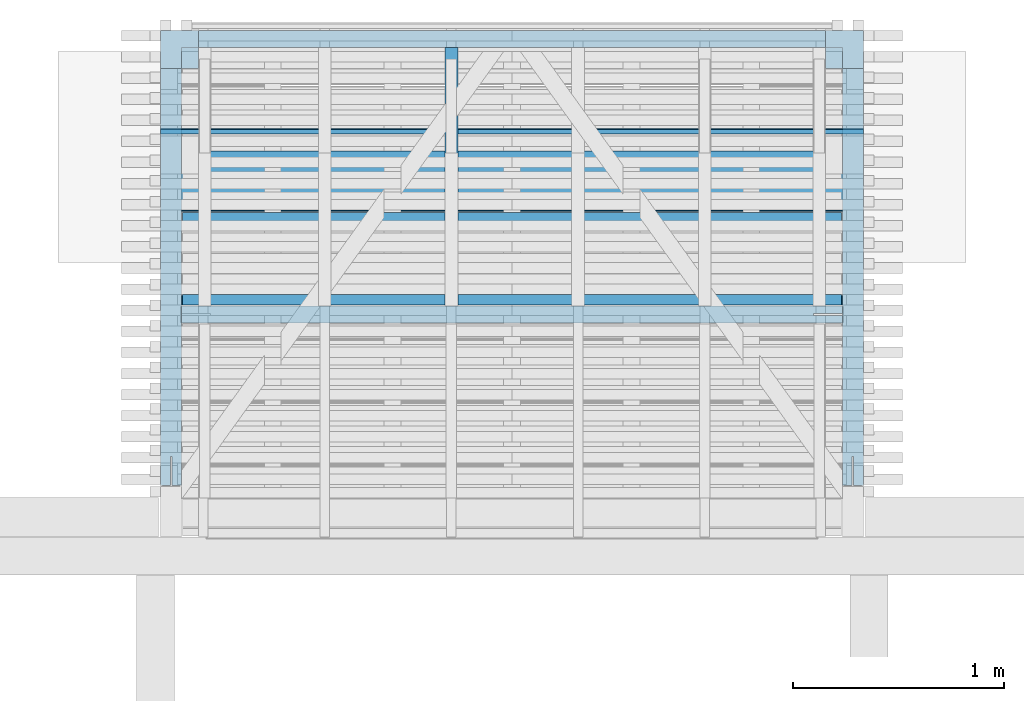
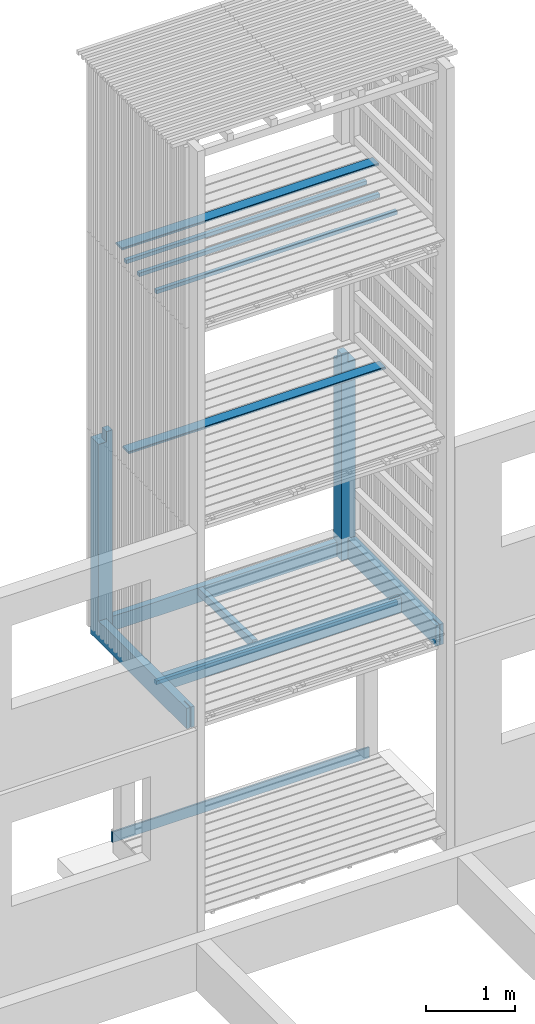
# One storey, part 47 of 182: 9 beams.
"""IFC2X3 building model written with IfcOpenShell, lengths in metres."""

from ifc_helpers import new_model, si_unit, frame, origin, place, context, project, spatial, faceted_brep, element, save


model = new_model("IFC2X3")

# Units and contexts
model_context = context("Model", 3, precision=1e-06, world=origin())
ifc_project = project(units=[si_unit("LENGTHUNIT", "METRE"), si_unit("PLANEANGLEUNIT", "RADIAN")], contexts=[model_context])

# Site, building, storey
site = spatial("IfcSite", under=ifc_project, CompositionType="ELEMENT")
building = spatial("IfcBuilding", under=site, CompositionType="ELEMENT")
storey = spatial("IfcBuildingStorey", under=building, Name="vs", CompositionType="ELEMENT", Elevation=-0.85)

# Beams
placement = place(None, origin())
beam_1_placement = place(placement, frame((14.98919731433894, 11.792577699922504, 2.437999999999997), z_axis=(0.0, -1.0, 0.0), x_axis=(0.0, 0.0, 1.0)))
element("IfcBeam", 1, at=beam_1_placement, inside=storey, Name="Poteau", context=model_context, shape_type="Brep", body=[
    faceted_brep([(2.841999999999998, -1.564999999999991, -0.997499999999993), (2.701999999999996, -1.564999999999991, -0.997499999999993), (2.701999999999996, -1.484999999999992, -0.997499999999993), (2.841999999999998, -1.484999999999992, -0.997499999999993), (2.701999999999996, 1.664999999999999, -1.077499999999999), (2.701999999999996, 1.485000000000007, -1.077499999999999), (0.202000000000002, 1.485000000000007, -1.077499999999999), (0.202000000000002, -1.484999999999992, -1.077499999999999), (2.701999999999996, -1.484999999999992, -1.077499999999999), (2.701999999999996, -1.664999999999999, -1.077499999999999), (0.002000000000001, -1.664999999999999, -1.077499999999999), (0.002000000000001, 1.664999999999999, -1.077499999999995), (0.282000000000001, -1.664999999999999, 1.077499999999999), (0.002000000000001, -1.664999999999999, 1.077499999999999), (0.002000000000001, -1.664999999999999, -1.077499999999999), (2.701999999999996, -1.664999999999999, -1.077499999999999), (2.701999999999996, -1.664999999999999, -0.897499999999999), (0.282000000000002, -1.664999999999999, -0.897499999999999), (2.701999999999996, -1.664999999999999, -0.897499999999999), (2.701999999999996, -1.664999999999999, -1.077499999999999), (2.701999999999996, -1.484999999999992, -1.077499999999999), (2.701999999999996, -1.484999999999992, -0.997499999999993), (2.701999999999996, -1.564999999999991, -0.997499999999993), (2.701999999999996, -1.564999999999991, -0.897499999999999), (2.701999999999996, -1.564999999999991, -0.897499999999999), (2.701999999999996, -1.564999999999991, -0.997499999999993), (2.841999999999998, -1.564999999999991, -0.997499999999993), (2.841999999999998, -1.564999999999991, -0.897499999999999), (2.841999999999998, -1.564999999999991, -0.897499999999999), (2.841999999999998, -1.564999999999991, -0.997499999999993), (2.841999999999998, -1.484999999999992, -0.997499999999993), (2.841999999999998, -1.484999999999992, -0.897499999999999), (0.002000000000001, -1.564999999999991, -0.897499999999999), (0.282000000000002, -1.564999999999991, -0.897499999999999), (0.282000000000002, -1.664999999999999, -0.897499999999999), (2.701999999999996, -1.664999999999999, -0.897499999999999), (2.701999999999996, -1.564999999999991, -0.897499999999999), (2.841999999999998, -1.564999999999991, -0.897499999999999), (2.841999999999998, -1.484999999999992, -0.897499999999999), (0.002000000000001, -1.484999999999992, -0.897499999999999), (0.202000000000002, -1.484999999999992, -0.997499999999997), (0.002000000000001, -1.484999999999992, -0.997499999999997), (0.002000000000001, -1.484999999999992, -0.897499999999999), (2.841999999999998, -1.484999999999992, -0.897499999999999), (2.841999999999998, -1.484999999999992, -0.997499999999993), (2.701999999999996, -1.484999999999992, -0.997499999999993), (2.701999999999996, -1.484999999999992, -1.077499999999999), (0.202000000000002, -1.484999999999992, -1.077499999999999), (2.841999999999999, 1.565000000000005, -0.897499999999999), (2.701999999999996, 1.565000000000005, -0.897499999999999), (2.701999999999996, 1.664999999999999, -0.897499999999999), (0.282000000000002, 1.664999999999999, -0.897499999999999), (0.282000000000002, 1.565000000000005, -0.897499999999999), (0.002000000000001, 1.565000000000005, -0.897499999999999), (0.002000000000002, 1.485000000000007, -0.897499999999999), (2.841999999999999, 1.485000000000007, -0.897499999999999), (2.841999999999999, 1.485000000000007, -0.997499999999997), (2.841999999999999, 1.485000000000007, -0.897499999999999), (0.002000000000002, 1.485000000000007, -0.897499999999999), (0.002000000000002, 1.485000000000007, -0.997500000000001), (0.202000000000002, 1.485000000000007, -0.997500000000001), (0.202000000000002, 1.485000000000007, -1.077499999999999), (2.701999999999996, 1.485000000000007, -1.077499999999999), (2.701999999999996, 1.485000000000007, -0.997499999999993), (2.701999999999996, 1.664999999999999, -1.077499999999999), (0.002000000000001, 1.664999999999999, -1.077499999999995), (0.002000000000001, 1.664999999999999, 1.077499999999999), (0.282000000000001, 1.664999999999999, 1.077499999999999), (0.282000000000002, 1.664999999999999, -0.897499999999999), (2.701999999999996, 1.664999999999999, -0.897499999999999), (0.202000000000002, 1.485000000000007, -0.997500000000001), (0.002000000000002, 1.485000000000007, -0.997500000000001), (0.002000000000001, -1.484999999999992, -0.997499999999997), (0.202000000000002, -1.484999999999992, -0.997499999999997), (0.202000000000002, -1.484999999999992, -1.077499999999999), (0.202000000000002, 1.485000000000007, -1.077499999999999), (0.202000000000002, 1.485000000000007, -0.997500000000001), (0.202000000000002, -1.484999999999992, -0.997499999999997), (0.002000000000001, -1.42799999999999, 0.263500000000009), (0.002, -1.564999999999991, 0.263500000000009), (0.177, -1.564999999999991, 0.263500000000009), (0.202000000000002, -1.564999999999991, 0.263500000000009), (0.202000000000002, -1.42799999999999, 0.263500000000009), (0.002000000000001, -1.42799999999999, 0.271500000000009), (0.002000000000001, -1.42799999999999, 0.263500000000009), (0.202000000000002, -1.42799999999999, 0.263500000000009), (0.202000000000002, -1.42799999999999, 0.271500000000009), (0.177, -1.564999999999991, 0.271500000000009), (0.002, -1.564999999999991, 0.271500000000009), (0.002000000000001, -1.42799999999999, 0.271500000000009), (0.202000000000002, -1.42799999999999, 0.271500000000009), (0.202000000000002, -1.564999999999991, 0.271500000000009), (0.177, -1.564999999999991, 0.263500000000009), (0.002, -1.564999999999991, 0.263500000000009), (0.002, -1.564999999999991, 0.22950000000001), (0.177, -1.564999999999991, 0.22950000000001), (0.202000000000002, -1.564999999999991, 0.271500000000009), (0.202000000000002, -1.42799999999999, 0.271500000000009), (0.202000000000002, -1.42799999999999, 0.263500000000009), (0.202000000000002, -1.564999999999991, 0.263500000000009), (0.202000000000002, -1.564999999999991, 0.227500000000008), (0.202000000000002, 1.565000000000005, 0.227500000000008), (0.202000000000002, 1.565000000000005, 0.30750000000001), (0.202000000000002, -1.564999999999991, 0.30750000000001), (0.002000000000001, 1.565000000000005, 0.227500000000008), (0.202000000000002, 1.565000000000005, 0.227500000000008), (0.202000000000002, -1.564999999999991, 0.227500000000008), (0.002, -1.564999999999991, 0.227500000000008), (0.202000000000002, -1.564999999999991, 0.30750000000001), (0.202000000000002, 1.565000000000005, 0.30750000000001), (0.002000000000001, 1.565000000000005, 0.30750000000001), (0.002, -1.564999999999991, 0.30750000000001), (0.002, -1.564999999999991, 0.305500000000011), (0.002, -1.564999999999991, 0.271500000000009), (0.177, -1.564999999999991, 0.271500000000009), (0.177, -1.564999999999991, 0.305500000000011), (0.002, -1.564999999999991, 0.227500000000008), (0.202000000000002, -1.564999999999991, 0.227500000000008), (0.202000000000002, -1.564999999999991, 0.263500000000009), (0.177, -1.564999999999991, 0.263500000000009), (0.177, -1.564999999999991, 0.271500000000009), (0.202000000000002, -1.564999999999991, 0.271500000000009), (0.202000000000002, -1.564999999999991, 0.30750000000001), (0.002, -1.564999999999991, 0.30750000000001), (0.002000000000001, -1.564999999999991, 1.077499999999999), (0.282000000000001, -1.564999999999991, 1.077499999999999), (0.282000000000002, -1.564999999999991, -0.897499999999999), (0.002000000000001, -1.564999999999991, -0.897499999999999), (0.002, -1.569999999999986, 0.22950000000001), (0.002, -1.569999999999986, 0.305500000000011), (0.177, -1.569999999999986, 0.305500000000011), (0.177, -1.569999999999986, 0.22950000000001), (0.177, -1.564999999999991, 0.271500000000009), (0.177, -1.564999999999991, 0.263500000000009), (0.177, -1.564999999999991, 0.22950000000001), (0.177, -1.569999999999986, 0.22950000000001), (0.177, -1.569999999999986, 0.305500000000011), (0.177, -1.564999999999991, 0.305500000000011), (0.177, -1.564999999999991, 0.22950000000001), (0.002, -1.564999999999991, 0.22950000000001), (0.002, -1.569999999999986, 0.22950000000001), (0.177, -1.569999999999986, 0.22950000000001), (0.177, -1.569999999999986, 0.305500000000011), (0.002, -1.569999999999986, 0.305500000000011), (0.002, -1.564999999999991, 0.305500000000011), (0.177, -1.564999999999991, 0.305500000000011), (0.002000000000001, -1.610999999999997, 0.940500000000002), (0.002000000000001, -1.618999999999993, 0.940500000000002), (0.282000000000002, -1.618999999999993, 0.940500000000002), (0.282000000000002, -1.610999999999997, 0.940500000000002), (0.282000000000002, -1.618999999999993, 0.940500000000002), (0.002000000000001, -1.618999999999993, 0.940500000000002), (0.002000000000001, -1.618999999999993, 1.077499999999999), (0.282000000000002, -1.618999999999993, 1.077500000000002), (0.002000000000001, -1.664999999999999, 1.077499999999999), (0.282000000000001, -1.664999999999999, 1.077499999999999), (0.282000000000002, -1.618999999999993, 1.077500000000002), (0.002000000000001, -1.618999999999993, 1.077499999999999), (0.282000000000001, -1.564999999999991, 1.077499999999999), (0.002000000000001, -1.564999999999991, 1.077499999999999), (0.002000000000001, -1.610999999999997, 1.077499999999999), (0.282000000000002, -1.610999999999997, 1.077500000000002), (0.282000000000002, -1.610999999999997, 1.077500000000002), (0.002000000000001, -1.610999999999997, 1.077499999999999), (0.002000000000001, -1.610999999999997, 0.940500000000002), (0.282000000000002, -1.610999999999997, 0.940500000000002), (0.282000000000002, -1.564999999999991, -0.897499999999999), (0.282000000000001, -1.564999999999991, 1.077499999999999), (0.282000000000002, -1.610999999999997, 1.077500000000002), (0.282000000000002, -1.610999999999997, 0.940500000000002), (0.282000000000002, -1.618999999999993, 0.940500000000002), (0.282000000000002, -1.618999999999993, 1.077500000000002), (0.282000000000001, -1.664999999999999, 1.077499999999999), (0.282000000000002, -1.664999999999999, -0.897499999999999), (0.002000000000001, 1.619000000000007, 0.940499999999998), (0.002000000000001, 1.611000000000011, 0.940499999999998), (0.282000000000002, 1.611000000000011, 0.940499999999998), (0.282000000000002, 1.619000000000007, 0.940499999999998), (0.282000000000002, 1.611000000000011, 0.940499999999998), (0.002000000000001, 1.611000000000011, 0.940499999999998), (0.002000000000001, 1.611000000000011, 1.077499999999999), (0.282000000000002, 1.611000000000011, 1.077499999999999), (0.002000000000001, 1.565000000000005, 1.077499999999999), (0.282000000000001, 1.565000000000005, 1.077499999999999), (0.282000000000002, 1.611000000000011, 1.077499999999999), (0.002000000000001, 1.611000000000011, 1.077499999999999), (0.282000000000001, 1.664999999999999, 1.077499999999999), (0.002000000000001, 1.664999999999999, 1.077499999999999), (0.002000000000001, 1.619000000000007, 1.077499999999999), (0.282000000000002, 1.619000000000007, 1.077499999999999), (0.282000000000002, 1.619000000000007, 1.077499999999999), (0.002000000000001, 1.619000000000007, 1.077499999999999), (0.002000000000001, 1.619000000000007, 0.940499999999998), (0.282000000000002, 1.619000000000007, 0.940499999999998), (0.282000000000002, 1.664999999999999, -0.897499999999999), (0.282000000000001, 1.664999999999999, 1.077499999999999), (0.282000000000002, 1.619000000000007, 1.077499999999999), (0.282000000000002, 1.619000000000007, 0.940499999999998), (0.282000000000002, 1.611000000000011, 0.940499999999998), (0.282000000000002, 1.611000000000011, 1.077499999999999), (0.282000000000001, 1.565000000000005, 1.077499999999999), (0.282000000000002, 1.565000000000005, -0.897499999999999), (0.202000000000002, 1.565000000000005, 0.227500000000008), (0.002000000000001, 1.565000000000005, 0.227500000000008), (0.002000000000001, 1.565000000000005, -0.897499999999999), (0.282000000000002, 1.565000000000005, -0.897499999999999), (0.282000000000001, 1.565000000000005, 1.077499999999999), (0.002000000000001, 1.565000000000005, 1.077499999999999), (0.002000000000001, 1.565000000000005, 0.30750000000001), (0.202000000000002, 1.565000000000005, 0.30750000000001), (0.002, 1.442250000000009, 0.249000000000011), (0.002, 1.442250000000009, 0.28600000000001), (1e-15, 1.442250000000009, 0.28600000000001), (1e-15, 1.442250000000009, 0.249000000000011), (0.002, 1.442250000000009, 0.249000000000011), (1e-15, 1.442250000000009, 0.249000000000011), (0.0, 1.565750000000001, 0.249000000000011), (0.002, 1.565750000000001, 0.249000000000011), (1e-15, 1.442250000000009, 0.28600000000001), (0.002, 1.442250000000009, 0.28600000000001), (0.002, 1.565750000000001, 0.28600000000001), (0.0, 1.565750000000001, 0.28600000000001), (1e-15, 1.442250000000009, 0.249000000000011), (1e-15, 1.442250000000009, 0.28600000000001), (0.0, 1.565750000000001, 0.28600000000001), (0.0, 1.565750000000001, 0.249000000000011), (0.0, 1.565750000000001, 0.249000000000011), (0.0, 1.565750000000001, 0.28600000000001), (0.002, 1.565750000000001, 0.28600000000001), (0.002, 1.565750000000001, 0.249000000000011), (0.002000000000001, 1.565000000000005, 0.30750000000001), (0.002000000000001, 1.565000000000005, 1.077499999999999), (0.002000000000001, 1.611000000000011, 1.077499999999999), (0.002000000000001, 1.611000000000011, 0.940499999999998), (0.002000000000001, 1.619000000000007, 0.940499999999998), (0.002000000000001, 1.619000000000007, 1.077499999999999), (0.002000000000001, 1.664999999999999, 1.077499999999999), (0.002000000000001, 1.664999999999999, -1.077499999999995), (0.002000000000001, -1.664999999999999, -1.077499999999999), (0.002000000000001, -1.664999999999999, 1.077499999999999), (0.002000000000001, -1.618999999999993, 1.077499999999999), (0.002000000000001, -1.618999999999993, 0.940500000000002), (0.002000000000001, -1.610999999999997, 0.940500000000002), (0.002000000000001, -1.610999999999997, 1.077499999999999), (0.002000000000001, -1.564999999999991, 1.077499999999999), (0.002, -1.564999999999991, 0.30750000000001), (0.002, -1.564999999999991, 0.271500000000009), (0.002, -1.564999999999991, 0.305500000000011), (0.002, -1.569999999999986, 0.305500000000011), (0.002, -1.569999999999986, 0.22950000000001), (0.002, -1.564999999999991, 0.22950000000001), (0.002, -1.564999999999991, 0.263500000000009), (0.002000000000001, -1.42799999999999, 0.263500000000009), (0.002000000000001, -1.42799999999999, 0.271500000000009), (0.002000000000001, 1.565000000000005, -0.897499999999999), (0.002000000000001, 1.565000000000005, 0.227500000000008), (0.002, -1.564999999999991, 0.227500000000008), (0.002000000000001, -1.564999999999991, -0.897499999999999), (0.002000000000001, -1.484999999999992, -0.897499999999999), (0.002000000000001, -1.484999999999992, -0.997499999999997), (0.002000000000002, 1.485000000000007, -0.997500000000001), (0.002000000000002, 1.485000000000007, -0.897499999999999), (0.002, 1.565750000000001, 0.249000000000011), (0.002, 1.565750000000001, 0.28600000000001), (0.002, 1.442250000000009, 0.28600000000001), (0.002, 1.442250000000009, 0.249000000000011), (2.841999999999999, 1.485000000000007, -0.997499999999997), (2.701999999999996, 1.485000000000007, -0.997499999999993), (2.701999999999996, 1.565000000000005, -0.997499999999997), (2.841999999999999, 1.565000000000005, -0.997499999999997), (2.841999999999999, 1.565000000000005, -0.897499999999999), (2.841999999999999, 1.485000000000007, -0.897499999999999), (2.841999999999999, 1.485000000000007, -0.997499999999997), (2.841999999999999, 1.565000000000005, -0.997499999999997), (2.701999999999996, 1.565000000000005, -0.897499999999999), (2.841999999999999, 1.565000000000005, -0.897499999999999), (2.841999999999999, 1.565000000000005, -0.997499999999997), (2.701999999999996, 1.565000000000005, -0.997499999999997), (2.701999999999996, 1.664999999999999, -1.077499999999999), (2.701999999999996, 1.664999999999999, -0.897499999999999), (2.701999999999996, 1.565000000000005, -0.897499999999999), (2.701999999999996, 1.565000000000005, -0.997499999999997), (2.701999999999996, 1.485000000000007, -0.997499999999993), (2.701999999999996, 1.485000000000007, -1.077499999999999)], [[[0, 1, 2, 3]], [[4, 5, 6, 7, 8, 9, 10, 11]], [[12, 13, 14, 15, 16, 17]], [[18, 19, 20, 21, 22, 23]], [[24, 25, 26, 27]], [[28, 29, 30, 31]], [[32, 33, 34, 35, 36, 37, 38, 39]], [[40, 41, 42, 43, 44, 45, 46, 47]], [[48, 49, 50, 51, 52, 53, 54, 55]], [[56, 57, 58, 59, 60, 61, 62, 63]], [[64, 65, 66, 67, 68, 69]], [[70, 71, 72, 73]], [[74, 75, 76, 77]], [[78, 79, 80, 81, 82]], [[83, 84, 85, 86]], [[87, 88, 89, 90, 91]], [[92, 93, 94, 95]], [[96, 97, 98, 99, 100, 101, 102, 103]], [[104, 105, 106, 107]], [[108, 109, 110, 111]], [[112, 113, 114, 115]], [[116, 117, 118, 119, 120, 121, 122, 123, 124, 125, 126, 127]], [[128, 129, 130, 131]], [[132, 133, 134, 135, 136, 137]], [[138, 139, 140, 141]], [[142, 143, 144, 145]], [[146, 147, 148, 149]], [[150, 151, 152, 153]], [[154, 155, 156, 157]], [[158, 159, 160, 161]], [[162, 163, 164, 165]], [[166, 167, 168, 169, 170, 171, 172, 173]], [[174, 175, 176, 177]], [[178, 179, 180, 181]], [[182, 183, 184, 185]], [[186, 187, 188, 189]], [[190, 191, 192, 193]], [[194, 195, 196, 197, 198, 199, 200, 201]], [[202, 203, 204, 205, 206, 207, 208, 209]], [[210, 211, 212, 213]], [[214, 215, 216, 217]], [[218, 219, 220, 221]], [[222, 223, 224, 225]], [[226, 227, 228, 229]], [[230, 231, 232, 233, 234, 235, 236, 237, 238, 239, 240, 241, 242, 243, 244, 245], [246, 247, 248, 249, 250, 251, 252, 253], [254, 255, 256, 257, 258, 259, 260, 261], [262, 263, 264, 265]], [[266, 267, 268, 269]], [[270, 271, 272, 273]], [[274, 275, 276, 277]], [[278, 279, 280, 281, 282, 283]]]),
])
beam_2_placement = place(placement, frame((13.424197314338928, 11.590077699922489, 2.517399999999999), z_axis=(0.0, 0.0, 1.0), x_axis=(1.0, 0.0, 0.0)))
element("IfcBeam", 2, at=beam_2_placement, inside=storey, Name="Ligneul", context=model_context, shape_type="Brep", body=[
    faceted_brep([(4e-15, -0.024999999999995, 0.025), (4e-15, -0.024999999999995, -0.025), (3.129999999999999, -0.024999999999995, -0.025), (3.129999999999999, -0.024999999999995, 0.025), (4e-15, 0.025000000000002, 0.025), (4e-15, -0.024999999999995, 0.025), (3.129999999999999, -0.024999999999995, 0.025), (3.129999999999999, 0.025000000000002, 0.025), (4e-15, -0.024999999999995, 0.025), (4e-15, 0.025000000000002, 0.025), (4e-15, 0.025000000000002, -0.025), (4e-15, -0.024999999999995, -0.025), (4e-15, 0.025000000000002, -0.025), (4e-15, 0.025000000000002, 0.025), (3.129999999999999, 0.025000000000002, 0.025), (3.129999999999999, 0.025000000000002, -0.025), (3.129999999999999, -0.024999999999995, -0.025), (4e-15, -0.024999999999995, -0.025), (4e-15, 0.025000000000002, -0.025), (3.129999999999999, 0.025000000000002, -0.025), (3.129999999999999, -0.024999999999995, 0.025), (3.129999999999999, -0.024999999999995, -0.025), (3.129999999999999, 0.025000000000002, -0.025), (3.129999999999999, 0.025000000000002, 0.025)], [[[0, 1, 2, 3]], [[4, 5, 6, 7]], [[8, 9, 10, 11]], [[12, 13, 14, 15]], [[16, 17, 18, 19]], [[20, 21, 22, 23]]]),
])
beam_3_placement = place(placement, frame((13.32419731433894, 12.393577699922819, -0.0575), z_axis=(0.0, 0.0, -1.0), x_axis=(1.0, 0.0, 0.0)))
element("IfcBeam", 3, at=beam_3_placement, inside=storey, Name="Caillebotis", context=model_context, shape_type="Brep", body=[
    faceted_brep([(2e-15, -0.008499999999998, -0.0725), (2e-15, -0.0135, -0.067500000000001), (2e-15, -0.0135, 0.067500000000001), (2e-15, -0.008500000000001, 0.0725), (2e-15, 0.013500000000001, 0.0725), (2e-15, 0.013500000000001, -0.0725), (3.329999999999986, 0.013499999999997, -0.0725), (3.329999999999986, 0.013499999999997, 0.0725), (3.329999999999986, -0.008500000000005, 0.0725), (3.329999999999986, -0.0135, 0.067500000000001), (3.329999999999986, -0.0135, -0.067500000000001), (3.329999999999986, -0.008500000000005, -0.0725), (2e-15, -0.0135, 0.067500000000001), (2e-15, -0.0135, -0.067500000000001), (3.329999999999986, -0.0135, -0.067500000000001), (3.329999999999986, -0.0135, 0.067500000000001), (2e-15, -0.008500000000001, 0.0725), (2e-15, -0.0135, 0.067500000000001), (3.329999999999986, -0.0135, 0.067500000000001), (3.329999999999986, -0.008500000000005, 0.0725), (2e-15, 0.013500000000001, 0.0725), (2e-15, -0.008500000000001, 0.0725), (3.329999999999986, -0.008500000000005, 0.0725), (3.329999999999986, 0.013499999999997, 0.0725), (2e-15, 0.013500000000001, -0.0725), (2e-15, 0.013500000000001, 0.0725), (3.329999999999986, 0.013499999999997, 0.0725), (3.329999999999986, 0.013499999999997, -0.0725), (2e-15, -0.008499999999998, -0.0725), (2e-15, 0.013500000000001, -0.0725), (3.329999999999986, 0.013499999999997, -0.0725), (3.329999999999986, -0.008500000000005, -0.0725), (3.329999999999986, -0.0135, -0.067500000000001), (2e-15, -0.0135, -0.067500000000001), (2e-15, -0.008499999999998, -0.0725), (3.329999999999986, -0.008500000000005, -0.0725)], [[[0, 1, 2, 3, 4, 5]], [[6, 7, 8, 9, 10, 11]], [[12, 13, 14, 15]], [[16, 17, 18, 19]], [[20, 21, 22, 23]], [[24, 25, 26, 27]], [[28, 29, 30, 31]], [[32, 33, 34, 35]]]),
])
beam_4_placement = place(placement, frame((16.549197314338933, 11.983411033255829, 7.86739999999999), z_axis=(0.0, 0.0, 1.0), x_axis=(-1.0, 0.0, 0.0)))
element("IfcBeam", 4, at=beam_4_placement, inside=storey, Name="Bardage", context=model_context, shape_type="Brep", body=[
    faceted_brep([(3.120000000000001, 0.025000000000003, -0.024999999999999), (3.120000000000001, 0.025000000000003, 0.025000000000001), (3.120000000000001, -0.025000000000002, 0.025000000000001), (3.120000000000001, -0.025000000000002, -0.024999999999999), (-3e-15, -0.025000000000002, -0.024999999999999), (-3e-15, -0.025000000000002, 0.025000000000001), (-3e-15, 0.024999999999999, 0.025000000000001), (-3e-15, 0.024999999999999, -0.024999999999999), (-3e-15, 0.024999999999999, -0.024999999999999), (-3e-15, 0.024999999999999, 0.025000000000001), (3.120000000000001, 0.025000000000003, 0.025000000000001), (3.120000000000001, 0.025000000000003, -0.024999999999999), (-3e-15, 0.024999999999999, 0.025000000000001), (-3e-15, -0.025000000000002, 0.025000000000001), (3.120000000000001, -0.025000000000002, 0.025000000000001), (3.120000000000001, 0.025000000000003, 0.025000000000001), (-3e-15, -0.025000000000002, 0.025000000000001), (-3e-15, -0.025000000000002, -0.024999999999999), (3.120000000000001, -0.025000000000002, -0.024999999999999), (3.120000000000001, -0.025000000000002, 0.025000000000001), (-3e-15, -0.025000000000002, -0.024999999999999), (-3e-15, 0.024999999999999, -0.024999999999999), (3.120000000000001, 0.025000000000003, -0.024999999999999), (3.120000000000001, -0.025000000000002, -0.024999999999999)], [[[0, 1, 2, 3]], [[4, 5, 6, 7]], [[8, 9, 10, 11]], [[12, 13, 14, 15]], [[16, 17, 18, 19]], [[20, 21, 22, 23]]]),
])
beam_5_placement = place(placement, frame((14.702197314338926, 11.565077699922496, 2.604249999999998), z_axis=(0.0, 0.0, 1.0), x_axis=(1.2e-14, 1.0, 0.0)))
element("IfcBeam", 5, at=beam_5_placement, inside=storey, Name="Solive", context=model_context, shape_type="Brep", body=[
    faceted_brep([(0.0, -0.030000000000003, -0.06185), (1.225000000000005, -0.029999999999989, -0.06185), (1.225000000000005, -0.029999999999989, 0.037349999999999), (0.0, -0.030000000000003, 0.06185), (-1e-15, 0.029999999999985, -0.06185), (1.225000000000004, 0.029999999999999, -0.06185), (1.225000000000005, -0.029999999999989, -0.06185), (0.0, -0.030000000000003, -0.06185), (-1e-15, 0.029999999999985, 0.06185), (-1e-15, 0.029999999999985, -0.06185), (0.0, -0.030000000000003, -0.06185), (0.0, -0.030000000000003, 0.06185), (1.225000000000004, 0.029999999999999, -0.06185), (-1e-15, 0.029999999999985, -0.06185), (-1e-15, 0.029999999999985, 0.06185), (1.225000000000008, 0.029999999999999, 0.037349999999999), (1.225000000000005, -0.029999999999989, 0.037349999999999), (1.225000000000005, -0.029999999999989, -0.06185), (1.225000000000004, 0.029999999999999, -0.06185), (1.225000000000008, 0.029999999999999, 0.037349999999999), (0.0, -0.030000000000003, 0.06185), (1.225000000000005, -0.029999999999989, 0.037349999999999), (1.225000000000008, 0.029999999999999, 0.037349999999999), (-1e-15, 0.029999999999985, 0.06185)], [[[0, 1, 2, 3]], [[4, 5, 6, 7]], [[8, 9, 10, 11]], [[12, 13, 14, 15]], [[16, 17, 18, 19]], [[20, 21, 22, 23]]]),
])
beam_6_placement = place(placement, frame((16.654197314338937, 12.23457769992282, 8.13349999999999), z_axis=(0.0, 0.0, 1.0), x_axis=(-1.0, 0.0, 0.0)))
element("IfcBeam", 6, at=beam_6_placement, inside=storey, Name="Caillebotis", context=model_context, shape_type="Brep", body=[
    faceted_brep([(3.329999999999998, -0.072499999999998, -0.013500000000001), (3.329999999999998, 0.072499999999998, -0.013500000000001), (3.329999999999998, 0.072499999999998, 0.008499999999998), (3.329999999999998, 0.067500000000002, 0.013499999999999), (3.329999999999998, -0.067500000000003, 0.013499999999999), (3.329999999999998, -0.072499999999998, 0.0085), (0.0, -0.072500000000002, 0.0085), (0.0, -0.067500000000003, 0.013499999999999), (0.0, 0.067499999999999, 0.013499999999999), (0.0, 0.072499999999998, 0.008499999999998), (0.0, 0.072499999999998, -0.013500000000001), (0.0, -0.072500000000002, -0.013500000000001), (3.329999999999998, 0.072499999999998, 0.008499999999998), (3.329999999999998, 0.072499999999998, -0.013500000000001), (0.0, 0.072499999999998, -0.013500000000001), (0.0, 0.072499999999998, 0.008499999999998), (3.329999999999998, 0.067500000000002, 0.013499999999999), (3.329999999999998, 0.072499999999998, 0.008499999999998), (0.0, 0.072499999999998, 0.008499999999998), (0.0, 0.067499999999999, 0.013499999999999), (3.329999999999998, -0.067500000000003, 0.013499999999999), (3.329999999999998, 0.067500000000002, 0.013499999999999), (0.0, 0.067499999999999, 0.013499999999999), (0.0, -0.067500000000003, 0.013499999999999), (3.329999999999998, -0.072499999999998, 0.0085), (3.329999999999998, -0.067500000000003, 0.013499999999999), (0.0, -0.067500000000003, 0.013499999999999), (0.0, -0.072500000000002, 0.0085), (3.329999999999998, -0.072499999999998, -0.013500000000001), (3.329999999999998, -0.072499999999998, 0.0085), (0.0, -0.072500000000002, 0.0085), (0.0, -0.072500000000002, -0.013500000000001), (0.0, 0.072499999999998, -0.013500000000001), (3.329999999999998, 0.072499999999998, -0.013500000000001), (3.329999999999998, -0.072499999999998, -0.013500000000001), (0.0, -0.072500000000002, -0.013500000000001)], [[[0, 1, 2, 3, 4, 5]], [[6, 7, 8, 9, 10, 11]], [[12, 13, 14, 15]], [[16, 17, 18, 19]], [[20, 21, 22, 23]], [[24, 25, 26, 27]], [[28, 29, 30, 31]], [[32, 33, 34, 35]]]),
])
beam_7_placement = place(placement, frame((16.549197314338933, 11.595077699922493, 7.86739999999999), z_axis=(0.0, 0.0, 1.0), x_axis=(-1.0, 0.0, 0.0)))
element("IfcBeam", 7, at=beam_7_placement, inside=storey, Name="Bardage", context=model_context, shape_type="Brep", body=[
    faceted_brep([(-3e-15, 0.024999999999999, -0.024999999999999), (-3e-15, -0.025000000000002, -0.024999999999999), (-3e-15, -0.025000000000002, 0.025000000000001), (-3e-15, 0.024999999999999, 0.025000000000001), (3.120000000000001, -0.025000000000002, 0.025000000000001), (3.120000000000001, -0.025000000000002, -0.024999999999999), (3.120000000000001, 0.025000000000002, -0.024999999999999), (3.120000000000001, 0.025000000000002, 0.025000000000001), (3.120000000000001, -0.025000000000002, -0.024999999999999), (3.120000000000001, -0.025000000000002, 0.025000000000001), (-3e-15, -0.025000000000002, 0.025000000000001), (-3e-15, -0.025000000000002, -0.024999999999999), (3.120000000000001, 0.025000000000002, -0.024999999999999), (3.120000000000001, -0.025000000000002, -0.024999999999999), (-3e-15, -0.025000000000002, -0.024999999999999), (-3e-15, 0.024999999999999, -0.024999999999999), (3.120000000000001, 0.025000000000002, 0.025000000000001), (3.120000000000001, 0.025000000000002, -0.024999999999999), (-3e-15, 0.024999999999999, -0.024999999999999), (-3e-15, 0.024999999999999, 0.025000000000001), (3.120000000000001, -0.025000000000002, 0.025000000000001), (3.120000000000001, 0.025000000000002, 0.025000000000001), (-3e-15, 0.024999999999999, 0.025000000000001), (-3e-15, -0.025000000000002, 0.025000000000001)], [[[0, 1, 2, 3]], [[4, 5, 6, 7]], [[8, 9, 10, 11]], [[12, 13, 14, 15]], [[16, 17, 18, 19]], [[20, 21, 22, 23]]]),
])
beam_8_placement = place(placement, frame((16.654197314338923, 12.084577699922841, 5.433499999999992), z_axis=(0.0, 0.0, 1.0), x_axis=(-1.0, -1e-14, 0.0)))
element("IfcBeam", 8, at=beam_8_placement, inside=storey, Name="Caillebotis", context=model_context, shape_type="Brep", body=[
    faceted_brep([(3.329999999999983, -0.072500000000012, -0.013499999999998), (3.329999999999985, 0.072499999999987, -0.013499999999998), (3.329999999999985, 0.072499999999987, 0.008500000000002), (3.329999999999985, 0.067499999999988, 0.013500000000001), (3.329999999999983, -0.067500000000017, 0.013500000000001), (3.329999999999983, -0.072500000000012, 0.008500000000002), (-1.5e-14, -0.07249999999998, 0.008500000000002), (-1.5e-14, -0.067499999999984, 0.013500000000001), (-1.4e-14, 0.067500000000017, 0.013500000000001), (-1.4e-14, 0.072500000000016, 0.008500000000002), (-1.4e-14, 0.072500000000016, -0.013499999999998), (-1.5e-14, -0.07249999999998, -0.013499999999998), (3.329999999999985, 0.072499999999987, 0.008500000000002), (3.329999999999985, 0.072499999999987, -0.013499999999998), (-1.4e-14, 0.072500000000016, -0.013499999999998), (-1.4e-14, 0.072500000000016, 0.008500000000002), (3.329999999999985, 0.067499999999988, 0.013500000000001), (3.329999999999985, 0.072499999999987, 0.008500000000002), (-1.4e-14, 0.072500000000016, 0.008500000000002), (-1.4e-14, 0.067500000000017, 0.013500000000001), (3.329999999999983, -0.067500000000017, 0.013500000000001), (3.329999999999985, 0.067499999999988, 0.013500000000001), (-1.4e-14, 0.067500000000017, 0.013500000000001), (-1.5e-14, -0.067499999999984, 0.013500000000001), (3.329999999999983, -0.072500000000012, 0.008500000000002), (3.329999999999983, -0.067500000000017, 0.013500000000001), (-1.5e-14, -0.067499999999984, 0.013500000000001), (-1.5e-14, -0.07249999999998, 0.008500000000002), (3.329999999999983, -0.072500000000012, -0.013499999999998), (3.329999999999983, -0.072500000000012, 0.008500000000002), (-1.5e-14, -0.07249999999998, 0.008500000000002), (-1.5e-14, -0.07249999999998, -0.013499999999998), (-1.4e-14, 0.072500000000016, -0.013499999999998), (3.329999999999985, 0.072499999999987, -0.013499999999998), (3.329999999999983, -0.072500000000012, -0.013499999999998), (-1.5e-14, -0.07249999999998, -0.013499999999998)], [[[0, 1, 2, 3, 4, 5]], [[6, 7, 8, 9, 10, 11]], [[12, 13, 14, 15]], [[16, 17, 18, 19]], [[20, 21, 22, 23]], [[24, 25, 26, 27]], [[28, 29, 30, 31]], [[32, 33, 34, 35]]]),
])
beam_9_placement = place(placement, frame((16.549197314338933, 12.27466103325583, 7.86739999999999), z_axis=(0.0, 0.0, 1.0), x_axis=(-1.0, 0.0, 0.0)))
element("IfcBeam", 9, at=beam_9_placement, inside=storey, Name="Bardage", context=model_context, shape_type="Brep", body=[
    faceted_brep([(3.119999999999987, 0.024999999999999, 0.025000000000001), (3.119999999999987, -0.024999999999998, 0.025000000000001), (3.119999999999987, -0.024999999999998, -0.024999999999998), (3.119999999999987, 0.024999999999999, -0.024999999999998), (-3e-15, -0.025000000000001, 0.025000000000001), (-3e-15, 0.024999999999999, 0.025000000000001), (-3e-15, 0.024999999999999, -0.024999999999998), (-3e-15, -0.025000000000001, -0.024999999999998), (3.119999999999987, 0.024999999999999, -0.024999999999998), (3.119999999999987, -0.024999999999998, -0.024999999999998), (-3e-15, -0.025000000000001, -0.024999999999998), (-3e-15, 0.024999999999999, -0.024999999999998), (-3e-15, -0.025000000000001, -0.024999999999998), (3.119999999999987, -0.024999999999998, -0.024999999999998), (3.119999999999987, -0.024999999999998, 0.025000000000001), (-3e-15, -0.025000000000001, 0.025000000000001), (-3e-15, -0.025000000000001, 0.025000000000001), (3.119999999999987, -0.024999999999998, 0.025000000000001), (3.119999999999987, 0.024999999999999, 0.025000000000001), (-3e-15, 0.024999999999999, 0.025000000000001), (-3e-15, 0.024999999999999, 0.025000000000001), (3.119999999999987, 0.024999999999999, 0.025000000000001), (3.119999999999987, 0.024999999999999, -0.024999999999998), (-3e-15, 0.024999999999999, -0.024999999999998)], [[[0, 1, 2, 3]], [[4, 5, 6, 7]], [[8, 9, 10, 11]], [[12, 13, 14, 15]], [[16, 17, 18, 19]], [[20, 21, 22, 23]]]),
])

save(model, "model.ifc")
